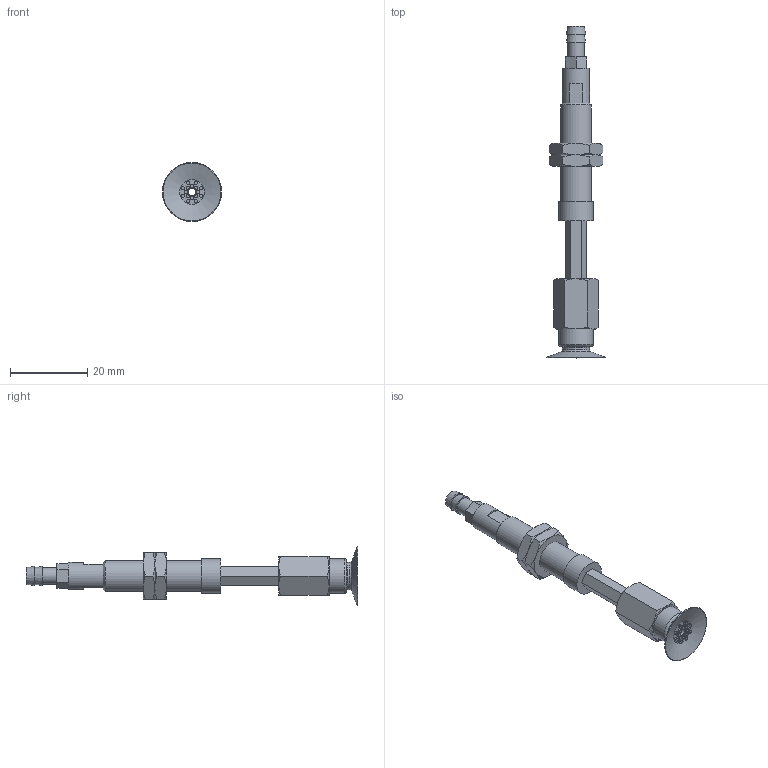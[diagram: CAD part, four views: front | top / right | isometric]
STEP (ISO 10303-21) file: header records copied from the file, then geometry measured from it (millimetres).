
FILE_DESCRIPTION(('STEP AP203'),'1');
FILE_NAME('-T.stp','2025-08-21T07:59:41',(' '),(' '),'Spatial InterOp 3D',' ',' ');
FILE_SCHEMA(('CONFIG_CONTROL_DESIGN'));
Length unit declared in the file: millimetre
Products named in the file (7): BNABPATH-15A-15-※-T; NAPATH-10A-15--F; Nut-10A-S; CONNECTOR-10A-3-T-PA; BPAG-15A-※; ADAPTER; NAPATH-10A-15--M
Assembly tree (7 placements, depth 2):
  BNABPATH-15A-15-※-T
    NAPATH-10A-15--F
    Nut-10A-S  x2
    CONNECTOR-10A-3-T-PA
    BPAG-15A-※
    ADAPTER
    NAPATH-10A-15--M
Bounding box: 15.3 x 86 x 15.3 mm (x, y, z)
Volume: 4135.1 mm3; surface area: 5342.9 mm2
Topology: 7 solids, 7 shells, 172 faces, 346 edges, 215 vertices
Faces by surface type: plane 81, cone 48, cylinder 34, torus 9
Full cylindrical faces by diameter (mm): 0.9 x16, 2 x3, 3 x1, 4 x2, 4.134 x1, 4.3 x1, 5 x1, 6 x2, 7 x2, 7.188 x2, 8 x1, 9 x2
Entity records: 4082 total; most frequent: CARTESIAN_POINT 861, DIRECTION 616, ORIENTED_EDGE 474, AXIS2_PLACEMENT_3D 270, EDGE_LOOP 240, EDGE_CURVE 237, FACE_OUTER_BOUND 191, VERTEX_POINT 179
